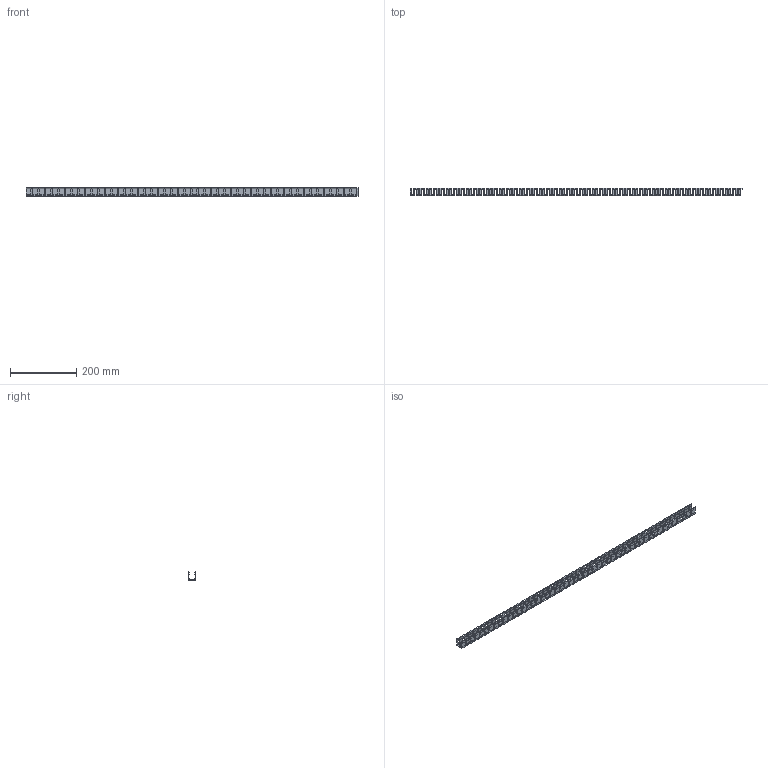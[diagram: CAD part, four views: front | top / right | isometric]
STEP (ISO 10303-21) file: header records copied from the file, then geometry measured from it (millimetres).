
FILE_DESCRIPTION(/* description */ (''),/* implementation_level */ '2;1');
FILE_NAME(/* name */ 'LF_SILICONE_FLEX_DUAL_BEND_L1000_R01.step',/* time_stamp */ '2026-08-18T15:13:14+02:00',/* author */ (''),/* organization */ (''),/* preprocessor_version */ 'ST-DEVELOPER v20.1',/* originating_system */ 'Autodesk Translation Framework v15.8.0.0',/* authorisation */ '');
FILE_SCHEMA (('AUTOMOTIVE_DESIGN { 1 0 10303 214 3 1 1 }'));
Products named in the file (1): 2026-07-27-13-53-08-939
Bounding box: 1000 x 22.01 x 25.75 mm (x, y, z)
Volume: 55084.4 mm3; surface area: 119426.1 mm2
Topology: 1 solids, 1 shells, 2115 faces, 6339 edges, 4226 vertices
Faces by surface type: plane 1812, cylinder 303
Entity records: 70392 total; most frequent: CARTESIAN_POINT 12681, ORIENTED_EDGE 12678, DIRECTION 11177, EDGE_CURVE 6339, LINE 5733, VECTOR 5733, VERTEX_POINT 4226, AXIS2_PLACEMENT_3D 2722
